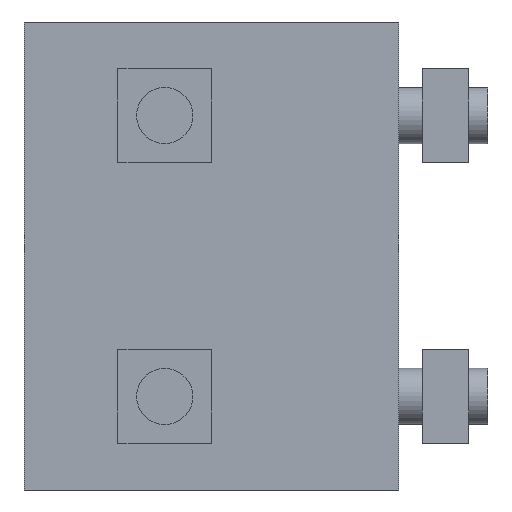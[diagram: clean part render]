
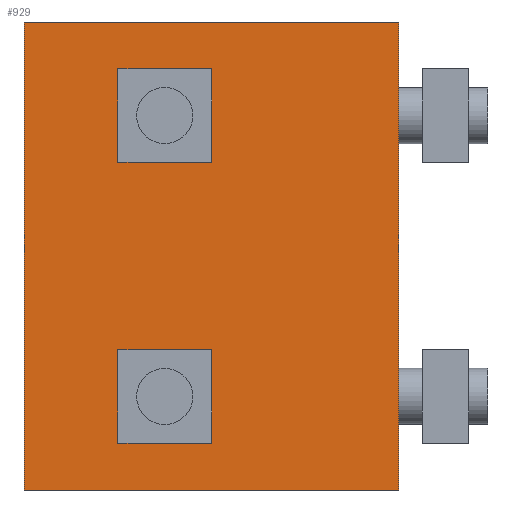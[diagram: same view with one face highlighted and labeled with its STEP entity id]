
A CAD part, left-side view. The second image highlights one B-rep face of the part: STEP entity #929.
In plain terms, the highlighted planar face has unit normal (-1, 0, 0).
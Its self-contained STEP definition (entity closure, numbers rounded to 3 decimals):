
#140=CARTESIAN_POINT('',(0.,21.5,15.0));
#141=VERTEX_POINT('',#140);
#142=CARTESIAN_POINT('',(0.,25.0,15.0));
#143=DIRECTION('',(1.0,0.0,0.0));
#144=DIRECTION('',(0.0,-1.0,0.0));
#145=AXIS2_PLACEMENT_3D('',#142,#143,#144);
#146=CIRCLE('',#145,3.5);
#147=EDGE_CURVE('',#141,#141,#146,.T.);
#196=CARTESIAN_POINT('',(0.,21.5,-15.0));
#197=VERTEX_POINT('',#196);
#198=CARTESIAN_POINT('',(0.,25.0,-15.0));
#199=DIRECTION('',(1.0,0.0,0.0));
#200=DIRECTION('',(0.0,-1.0,0.0));
#201=AXIS2_PLACEMENT_3D('',#198,#199,#200);
#202=CIRCLE('',#201,3.5);
#203=EDGE_CURVE('',#197,#197,#202,.T.);
#424=CARTESIAN_POINT('',(0.0,0.0,-25.0));
#425=VERTEX_POINT('',#424);
#432=CARTESIAN_POINT('',(0.,40.0,-25.0));
#433=VERTEX_POINT('',#432);
#434=CARTESIAN_POINT('',(0.,40.0,-25.0));
#435=DIRECTION('',(0.0,-1.0,0.0));
#436=VECTOR('',#435,40.0);
#437=LINE('',#434,#436);
#438=EDGE_CURVE('',#433,#425,#437,.T.);
#893=CARTESIAN_POINT('',(0.0,0.0,0.0));
#894=DIRECTION('',(-1.0,0.0,0.0));
#895=DIRECTION('',(0.0,0.0,1.0));
#896=AXIS2_PLACEMENT_3D('',#893,#894,#895);
#897=PLANE('',#896);
#898=CARTESIAN_POINT('',(0.0,0.0,25.0));
#899=VERTEX_POINT('',#898);
#900=CARTESIAN_POINT('',(0.,40.0,25.0));
#901=VERTEX_POINT('',#900);
#902=CARTESIAN_POINT('',(0.0,0.0,25.0));
#903=DIRECTION('',(0.0,1.0,0.0));
#904=VECTOR('',#903,40.0);
#905=LINE('',#902,#904);
#906=EDGE_CURVE('',#899,#901,#905,.T.);
#907=ORIENTED_EDGE('',*,*,#906,.T.);
#908=CARTESIAN_POINT('',(0.,40.0,-25.0));
#909=DIRECTION('',(0.0,0.0,1.0));
#910=VECTOR('',#909,50.0);
#911=LINE('',#908,#910);
#912=EDGE_CURVE('',#433,#901,#911,.T.);
#913=ORIENTED_EDGE('',*,*,#912,.F.);
#914=ORIENTED_EDGE('',*,*,#438,.T.);
#915=CARTESIAN_POINT('',(0.0,0.0,25.0));
#916=DIRECTION('',(0.0,0.0,-1.0));
#917=VECTOR('',#916,50.0);
#918=LINE('',#915,#917);
#919=EDGE_CURVE('',#899,#425,#918,.T.);
#920=ORIENTED_EDGE('',*,*,#919,.F.);
#921=EDGE_LOOP('',(#907,#913,#914,#920));
#922=FACE_OUTER_BOUND('',#921,.T.);
#923=ORIENTED_EDGE('',*,*,#203,.T.);
#924=EDGE_LOOP('',(#923));
#925=FACE_BOUND('',#924,.T.);
#926=ORIENTED_EDGE('',*,*,#147,.T.);
#927=EDGE_LOOP('',(#926));
#928=FACE_BOUND('',#927,.T.);
#929=ADVANCED_FACE('',(#922,#925,#928),#897,.T.);
